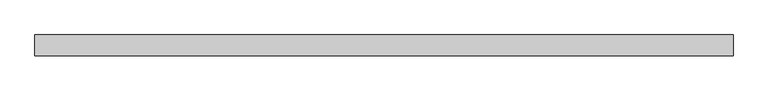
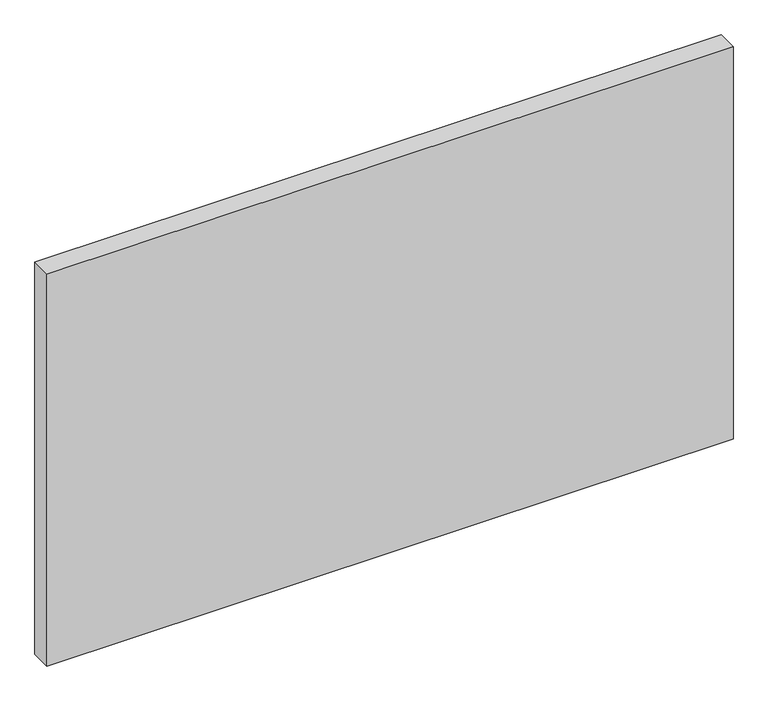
"""IFC4 building model written with IfcOpenShell, lengths in millimetres: plate geometry, Vitré."""

from ifc_helpers import new_model, si_unit, origin, origin_with_axes, place, context, project, spatial, polyline, outline, extrude, source, transform, mapped, element, save


def plate_337a6d6d(model_context):
    return source(origin(), model_context, "Body", "SweptSolid", [
        extrude(outline(polyline([(-662.5, -20.0), (-662.5, 20.0), (662.5, 20.0), (662.5, -20.0), (-662.5, -20.0)])), origin_with_axes(), (0.0, 0.0, 1.0), 801.2351114),
    ])


if __name__ == "__main__":
    model = new_model("IFC4")
    model_context = context("Model", 3, world=origin())
    ifc_project = project(units=[si_unit("LENGTHUNIT", "METRE", prefix="MILLI")], contexts=[model_context])
    site = spatial("IfcSite", under=ifc_project)
    building = spatial("IfcBuilding", under=site)
    placement = place(None, origin())
    plate_shape = plate_337a6d6d(model_context)
    element("IfcPlate", 1, ObjectType="Vitré", at=placement, inside=building, context=model_context, shape_type="MappedRepresentation", body=[
        mapped(plate_shape, transform((0.0, 0.0, 0.0), x_axis=(1.0, 0.0, 0.0), y_axis=(0.0, 1.0, 0.0), z_axis=(0.0, 0.0, 1.0))),
    ])
    save(model, "model.ifc")
